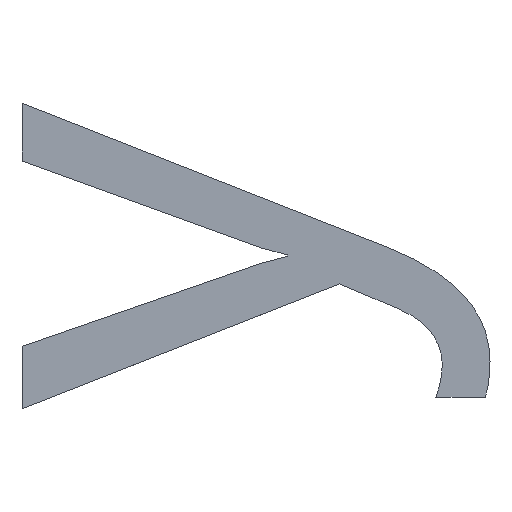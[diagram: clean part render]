
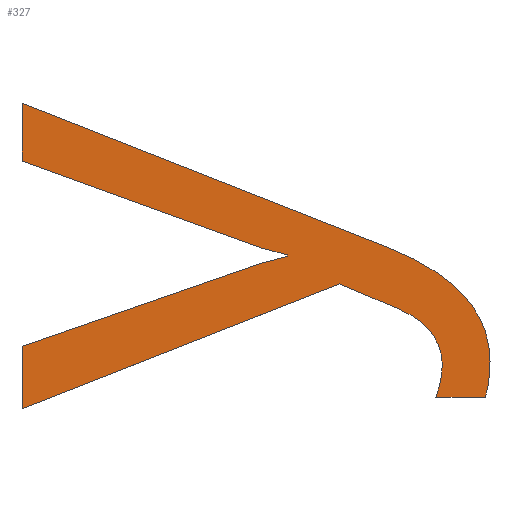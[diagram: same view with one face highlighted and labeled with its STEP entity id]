
A CAD part, top view. The second image highlights one B-rep face of the part: STEP entity #327.
In plain terms, the highlighted planar face has unit normal (0, 0, 1).
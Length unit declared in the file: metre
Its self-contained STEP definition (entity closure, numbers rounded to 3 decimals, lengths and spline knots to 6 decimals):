
#18=CIRCLE('',#461,0.000023);
#23=B_SPLINE_CURVE_WITH_KNOTS('',3,(#587,#588,#589,#590),.UNSPECIFIED.,
 .F.,.F.,(4,4),(12.,13.),.UNSPECIFIED.);
#24=B_SPLINE_CURVE_WITH_KNOTS('',3,(#604,#605,#606,#607),.UNSPECIFIED.,
 .F.,.F.,(4,4),(5.,6.),.UNSPECIFIED.);
#25=B_SPLINE_CURVE_WITH_KNOTS('',3,(#613,#614,#615,#616),.UNSPECIFIED.,
 .F.,.F.,(4,4),(2.,3.),.UNSPECIFIED.);
#26=B_SPLINE_CURVE_WITH_KNOTS('',3,(#618,#619,#620,#621),.UNSPECIFIED.,
 .F.,.F.,(4,4),(1.,2.),.UNSPECIFIED.);
#42=ORIENTED_EDGE('',*,*,#132,.T.);
#43=ORIENTED_EDGE('',*,*,#133,.T.);
#44=ORIENTED_EDGE('',*,*,#134,.T.);
#45=ORIENTED_EDGE('',*,*,#135,.T.);
#46=ORIENTED_EDGE('',*,*,#136,.T.);
#47=ORIENTED_EDGE('',*,*,#137,.T.);
#48=ORIENTED_EDGE('',*,*,#138,.T.);
#49=ORIENTED_EDGE('',*,*,#139,.T.);
#50=ORIENTED_EDGE('',*,*,#140,.T.);
#51=ORIENTED_EDGE('',*,*,#141,.T.);
#52=ORIENTED_EDGE('',*,*,#142,.T.);
#53=ORIENTED_EDGE('',*,*,#143,.T.);
#54=ORIENTED_EDGE('',*,*,#144,.T.);
#55=ORIENTED_EDGE('',*,*,#145,.T.);
#56=ORIENTED_EDGE('',*,*,#146,.T.);
#132=EDGE_CURVE('',#177,#178,#202,.T.);
#133=EDGE_CURVE('',#178,#179,#203,.T.);
#134=EDGE_CURVE('',#179,#180,#23,.T.);
#135=EDGE_CURVE('',#180,#181,#204,.T.);
#136=EDGE_CURVE('',#181,#182,#205,.T.);
#137=EDGE_CURVE('',#182,#183,#206,.T.);
#138=EDGE_CURVE('',#183,#184,#207,.T.);
#139=EDGE_CURVE('',#184,#185,#208,.T.);
#140=EDGE_CURVE('',#185,#186,#209,.T.);
#141=EDGE_CURVE('',#186,#187,#24,.T.);
#142=EDGE_CURVE('',#187,#188,#18,.T.);
#143=EDGE_CURVE('',#188,#189,#210,.T.);
#144=EDGE_CURVE('',#189,#190,#25,.T.);
#145=EDGE_CURVE('',#190,#191,#26,.T.);
#146=EDGE_CURVE('',#191,#177,#211,.T.);
#177=VERTEX_POINT('',#583);
#178=VERTEX_POINT('',#584);
#179=VERTEX_POINT('',#586);
#180=VERTEX_POINT('',#591);
#181=VERTEX_POINT('',#593);
#182=VERTEX_POINT('',#595);
#183=VERTEX_POINT('',#597);
#184=VERTEX_POINT('',#599);
#185=VERTEX_POINT('',#601);
#186=VERTEX_POINT('',#603);
#187=VERTEX_POINT('',#608);
#188=VERTEX_POINT('',#610);
#189=VERTEX_POINT('',#612);
#190=VERTEX_POINT('',#617);
#191=VERTEX_POINT('',#622);
#202=LINE('',#582,#237);
#203=LINE('',#585,#238);
#204=LINE('',#592,#239);
#205=LINE('',#594,#240);
#206=LINE('',#596,#241);
#207=LINE('',#598,#242);
#208=LINE('',#600,#243);
#209=LINE('',#602,#244);
#210=LINE('',#611,#245);
#211=LINE('',#623,#246);
#237=VECTOR('',#490,1.);
#238=VECTOR('',#491,1.);
#239=VECTOR('',#492,1.);
#240=VECTOR('',#493,1.);
#241=VECTOR('',#494,1.);
#242=VECTOR('',#495,1.);
#243=VECTOR('',#496,1.);
#244=VECTOR('',#497,1.);
#245=VECTOR('',#500,1.);
#246=VECTOR('',#501,1.);
#263=EDGE_LOOP('',(#42,#43,#44,#45,#46,#47,#48,#49,#50,#51,#52,#53,#54,
#55,#56));
#280=FACE_BOUND('',#263,.T.);
#297=PLANE('',#460);
#327=ADVANCED_FACE('',(#280),#297,.T.);
#460=AXIS2_PLACEMENT_3D('',#581,#488,#489);
#461=AXIS2_PLACEMENT_3D('',#609,#498,#499);
#488=DIRECTION('',(0.,0.,1.));
#489=DIRECTION('',(-1.,0.,0.));
#490=DIRECTION('',(0.,-1.,0.));
#491=DIRECTION('',(0.94,-0.341,0.));
#492=DIRECTION('',(0.,-1.,0.));
#493=DIRECTION('',(-0.968,-0.252,0.));
#494=DIRECTION('',(-0.945,-0.328,0.));
#495=DIRECTION('',(0.,-1.,0.));
#496=DIRECTION('',(0.931,0.366,0.));
#497=DIRECTION('',(0.921,-0.39,0.));
#498=DIRECTION('',(0.,0.,-1.));
#499=DIRECTION('',(1.,-0.009,0.));
#500=DIRECTION('',(1.,0.,0.));
#501=DIRECTION('',(-0.93,0.367,0.));
#581=CARTESIAN_POINT('',(-0.121079,-0.022819,0.01125));
#582=CARTESIAN_POINT('',(-0.1212,-0.022782,0.01125));
#583=CARTESIAN_POINT('',(-0.1212,-0.022766,0.01125));
#584=CARTESIAN_POINT('',(-0.1212,-0.022782,0.01125));
#585=CARTESIAN_POINT('',(-0.121135,-0.022806,0.01125));
#586=CARTESIAN_POINT('',(-0.121135,-0.022806,0.01125));
#587=CARTESIAN_POINT('',(-0.121135,-0.022806,0.01125));
#588=CARTESIAN_POINT('',(-0.121131,-0.022807,0.01125));
#589=CARTESIAN_POINT('',(-0.121129,-0.022807,0.01125));
#590=CARTESIAN_POINT('',(-0.121127,-0.022808,0.01125));
#591=CARTESIAN_POINT('',(-0.121127,-0.022808,0.01125));
#592=CARTESIAN_POINT('',(-0.121127,-0.022808,0.01125));
#593=CARTESIAN_POINT('',(-0.121127,-0.022808,0.01125));
#594=CARTESIAN_POINT('',(-0.121135,-0.02281,0.01125));
#595=CARTESIAN_POINT('',(-0.121135,-0.02281,0.01125));
#596=CARTESIAN_POINT('',(-0.1212,-0.022833,0.01125));
#597=CARTESIAN_POINT('',(-0.1212,-0.022833,0.01125));
#598=CARTESIAN_POINT('',(-0.1212,-0.02285,0.01125));
#599=CARTESIAN_POINT('',(-0.1212,-0.02285,0.01125));
#600=CARTESIAN_POINT('',(-0.121113,-0.022816,0.01125));
#601=CARTESIAN_POINT('',(-0.121113,-0.022816,0.01125));
#602=CARTESIAN_POINT('',(-0.121097,-0.022822,0.01125));
#603=CARTESIAN_POINT('',(-0.121097,-0.022822,0.01125));
#604=CARTESIAN_POINT('',(-0.121097,-0.022822,0.01125));
#605=CARTESIAN_POINT('',(-0.121089,-0.022826,0.01125));
#606=CARTESIAN_POINT('',(-0.121085,-0.022831,0.01125));
#607=CARTESIAN_POINT('',(-0.121085,-0.022838,0.01125));
#608=CARTESIAN_POINT('',(-0.121085,-0.022838,0.01125));
#609=CARTESIAN_POINT('',(-0.121108,-0.022838,0.01125));
#610=CARTESIAN_POINT('',(-0.121087,-0.022847,0.01125));
#611=CARTESIAN_POINT('',(-0.121073,-0.022847,0.01125));
#612=CARTESIAN_POINT('',(-0.121073,-0.022847,0.01125));
#613=CARTESIAN_POINT('',(-0.121073,-0.022847,0.01125));
#614=CARTESIAN_POINT('',(-0.121072,-0.022844,0.01125));
#615=CARTESIAN_POINT('',(-0.121072,-0.022841,0.01125));
#616=CARTESIAN_POINT('',(-0.121072,-0.022837,0.01125));
#617=CARTESIAN_POINT('',(-0.121072,-0.022837,0.01125));
#618=CARTESIAN_POINT('',(-0.121072,-0.022837,0.01125));
#619=CARTESIAN_POINT('',(-0.121072,-0.022823,0.01125));
#620=CARTESIAN_POINT('',(-0.121081,-0.022813,0.01125));
#621=CARTESIAN_POINT('',(-0.1211,-0.022806,0.01125));
#622=CARTESIAN_POINT('',(-0.1211,-0.022806,0.01125));
#623=CARTESIAN_POINT('',(-0.1212,-0.022766,0.01125));
